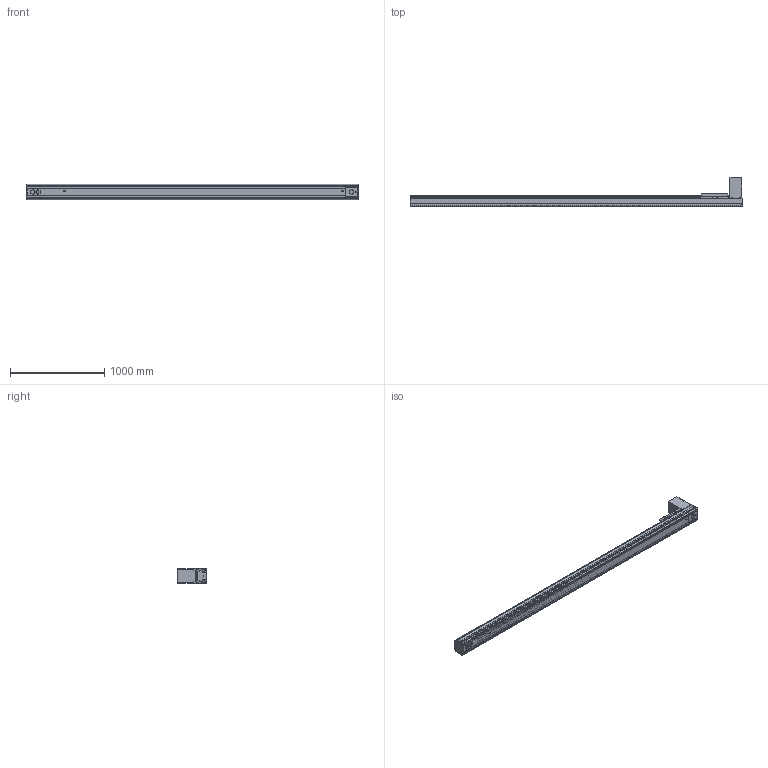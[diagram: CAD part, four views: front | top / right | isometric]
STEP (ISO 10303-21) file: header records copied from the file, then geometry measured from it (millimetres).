
FILE_DESCRIPTION((''),'2;1');
FILE_NAME('BE50G-BT-L19N-V5_IGS_PRT','2017-06-18T',(' '),(''),'PRO/ENGINEER BY PARAMETRIC TECHNOLOGY CORPORATION, 2015030','PRO/ENGINEER BY PARAMETRIC TECHNOLOGY CORPORATION, 2015030','');
FILE_SCHEMA(('CONFIG_CONTROL_DESIGN'));
Products named in the file (1): BE50G-BT-L19N-V5_IGS_PRT
Bounding box: 3520 x 309 x 160 mm (x, y, z)
Volume: 13123714.5 mm3; surface area: 5967363.4 mm2
Topology: 9 solids, 322 shells, 2239 faces, 6635 edges, 4586 vertices
Faces by surface type: cylinder 1197, plane 807, cone 192, sphere 23, torus 20
Entity records: 79662 total; most frequent: CARTESIAN_POINT 19295, DIRECTION 12428, ORIENTED_EDGE 12098, EDGE_CURVE 6561, AXIS2_PLACEMENT_3D 4729, VERTEX_POINT 4586, VECTOR 2970, LINE 2970
